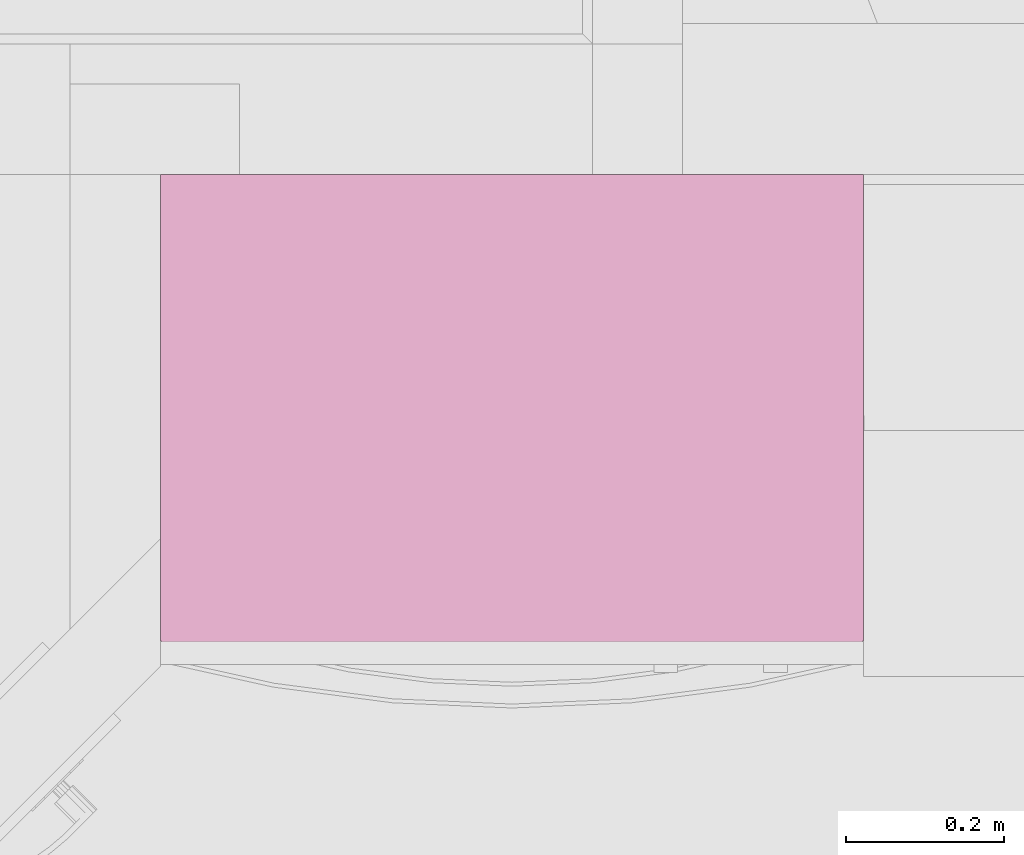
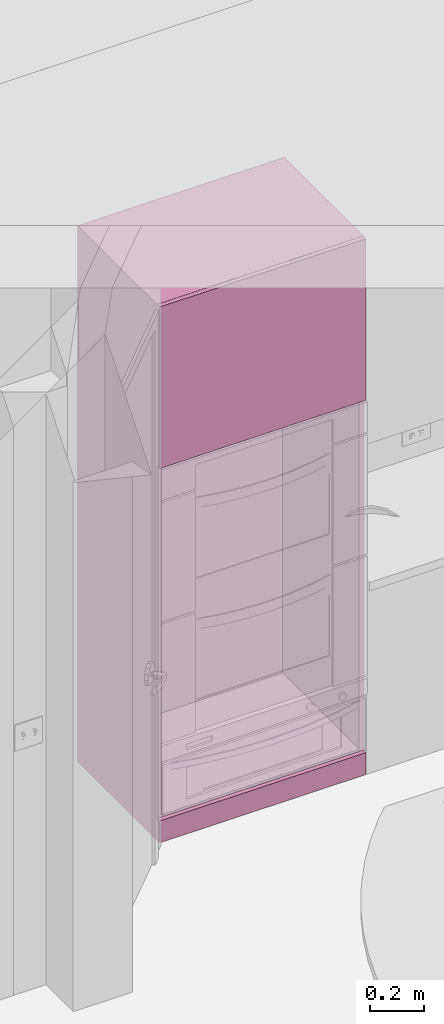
# One storey, part 50 of 103: 1 furnishing.
"""IFC2X3 building model written with IfcOpenShell, lengths in inches."""

import ifcopenshell
import ifcopenshell.guid

model = None  # the IFC model being written
_history = None  # IfcOwnerHistory: only IFC2X3 demands one
_inside = {}  # id of a spatial element -> (the spatial element, [elements in it])
_under = {}  # id of a project, library or spatial element -> (it, [spatial elements below it])
_declared = {}  # id of a project -> (the project, [libraries it declares])
_typed = {}  # id of a type object -> (the type object, [elements of that type])
_made_of = {}  # id of a material, layer set ... -> (it, [elements and type objects made of it])


def new_model(schema):
    """Start an empty IFC model of exactly this schema.

    Asked for "IFC4X3", IfcOpenShell would pick the latest addendum, in which some entities
    have other attributes; the version numbers below select the first issue.
    IFC2X3 requires an IfcOwnerHistory on every rooted entity: one is made here for all.
    """
    global model, _history
    if schema == "IFC4X3":
        model = ifcopenshell.file(schema_version=(4, 3, 0, 0))
    else:
        model = ifcopenshell.file(schema=schema)
    _inside.clear()
    _under.clear()
    _declared.clear()
    _typed.clear()
    _made_of.clear()
    _history = None
    if model.schema == "IFC2X3":
        org = make("IfcOrganization", Name="unknown")
        user = make(
            "IfcPersonAndOrganization",
            ThePerson=make("IfcPerson", FamilyName="unknown"),
            TheOrganization=org,
        )
        app = make(
            "IfcApplication",
            ApplicationDeveloper=org,
            Version="unknown",
            ApplicationFullName="unknown",
            ApplicationIdentifier="unknown",
        )
        _history = make(
            "IfcOwnerHistory",
            OwningUser=user,
            OwningApplication=app,
            ChangeAction="ADDED",
            CreationDate=0,
        )
    return model


def make(cls, **values):
    """One entity of the class cls with the attributes given. An attribute that is None is left unset."""
    return model.create_entity(
        cls, **{name: value for name, value in values.items() if value is not None}
    )


def entity(cls, *values):
    """Any entity or typed value of the class cls, its attributes in the order of the schema. None: left unset."""
    e = model.create_entity(cls)
    for i, value in enumerate(values):
        if value is not None:
            e[i] = value
    return e


def rooted(cls, **values):
    """An entity with a GlobalId (a new one), such as an element, a storey or a relation."""
    return make(cls, GlobalId=ifcopenshell.guid.new(), OwnerHistory=_history, **values)


def si_unit(unit_type, name, prefix=None):
    """IfcSIUnit, for example si_unit("LENGTHUNIT", "METRE", prefix="MILLI")."""
    return make("IfcSIUnit", UnitType=unit_type, Prefix=prefix, Name=name)


def converted_unit(unit_type, name, factor, base, dimensions=None, offset=None):
    """IfcConversionBasedUnit, such as the inch: factor (a typed value) times the base unit."""
    return make(
        "IfcConversionBasedUnit"
        if offset is None
        else "IfcConversionBasedUnitWithOffset",
        ConversionOffset=offset,
        Dimensions=None
        if dimensions is None
        else entity("IfcDimensionalExponents", *dimensions),
        UnitType=unit_type,
        Name=name,
        ConversionFactor=make(
            "IfcMeasureWithUnit", ValueComponent=factor, UnitComponent=base
        ),
    )


def derived_unit(unit_type, elements):
    """IfcDerivedUnit: a product of units, each with its exponent."""
    return make(
        "IfcDerivedUnit",
        Elements=[
            make("IfcDerivedUnitElement", Unit=unit, Exponent=power)
            for unit, power in elements
        ],
        UnitType=unit_type,
    )


def money_unit(currency):
    """IfcMonetaryUnit."""
    return make("IfcMonetaryUnit", Currency=currency)


def assignment(units):
    """IfcUnitAssignment: the units of a project."""
    return None if units is None else make("IfcUnitAssignment", Units=units)


def point(xyz):
    """IfcCartesianPoint."""
    return None if xyz is None else make("IfcCartesianPoint", Coordinates=xyz)


def direction(xyz):
    """IfcDirection."""
    return None if xyz is None else make("IfcDirection", DirectionRatios=xyz)


def frame(location, z_axis=None, x_axis=None):
    """IfcAxis2Placement3D, a coordinate frame: its origin and axes. An axis left out is left unset."""
    return make(
        "IfcAxis2Placement3D",
        Location=point(location),
        Axis=direction(z_axis),
        RefDirection=direction(x_axis),
    )


def origin_with_axes():
    """The frame at (0, 0, 0) with the z axis (0, 0, 1) and the x axis (1, 0, 0) written out."""
    return frame((0.0, 0.0, 0.0), z_axis=(0.0, 0.0, 1.0), x_axis=(1.0, 0.0, 0.0))


def place(relative_to, where):
    """IfcLocalPlacement: puts the frame where relative to a parent placement (None: the world)."""
    return make(
        "IfcLocalPlacement", PlacementRelTo=relative_to, RelativePlacement=where
    )


def context(
    kind, dimensions, precision=None, world=None, true_north=None, identifier=None
):
    """IfcGeometricRepresentationContext, for example the 3D "Model" context."""
    return make(
        "IfcGeometricRepresentationContext",
        ContextIdentifier=identifier,
        ContextType=kind,
        CoordinateSpaceDimension=dimensions,
        Precision=precision,
        WorldCoordinateSystem=world,
        TrueNorth=true_north,
    )


def subcontext(parent, identifier, kind, view, scale=None):
    """IfcGeometricRepresentationSubContext, for example "Body" below "Model"."""
    return make(
        "IfcGeometricRepresentationSubContext",
        ContextIdentifier=identifier,
        ContextType=kind,
        ParentContext=parent,
        TargetScale=scale,
        TargetView=view,
    )


def project(units=None, contexts=None):
    """IfcProject with its units and contexts."""
    return rooted(
        "IfcProject",
        Name="project",
        RepresentationContexts=contexts,
        UnitsInContext=assignment(units),
    )


def spatial(cls, under=None, at=None, **own):
    """A site, building, storey or space (cls), placed at a placement, below another one or the project."""
    s = rooted(cls, ObjectPlacement=at, **own)
    if under is not None:
        _under.setdefault(under.id(), (under, []))[1].append(s)
    return s


def faces_of(points, faces, orient=None, outer=None):
    """IfcFace entities. A face is a list of loops; a loop is a list of indices into points, from 0.

    orient and outer hold one flag for each loop. By default every Orientation is true, the
    first loop of a face is its IfcFaceOuterBound and the others are IfcFaceBound.
    """
    made = []
    for i, loops in enumerate(faces):
        bounds = []
        for j, loop in enumerate(loops):
            is_outer = j == 0 if outer is None else outer[i][j]
            bounds.append(
                make(
                    "IfcFaceOuterBound" if is_outer else "IfcFaceBound",
                    Bound=make("IfcPolyLoop", Polygon=[points[k] for k in loop]),
                    Orientation=True if orient is None else orient[i][j],
                )
            )
        made.append(make("IfcFace", Bounds=bounds))
    return made


def faceted_brep(points, faces, orient=None, outer=None, voids=None):
    """IfcFacetedBrep: a solid bounded by flat faces; with voids (closed shells), ...WithVoids."""
    shared = [point(p) for p in points]
    hull = make("IfcClosedShell", CfsFaces=faces_of(shared, faces, orient, outer))
    if voids is None:
        return make("IfcFacetedBrep", Outer=hull)
    return make(
        "IfcFacetedBrepWithVoids",
        Outer=hull,
        Voids=[
            make(cls, CfsFaces=faces_of(shared, fs, o, b)) for cls, fs, o, b in voids
        ],
    )


def shape(context_of_items, identifier, shape_type, items):
    """IfcShapeRepresentation: the items that make up one representation, for example the "Body"."""
    return make(
        "IfcShapeRepresentation",
        ContextOfItems=context_of_items,
        RepresentationIdentifier=identifier,
        RepresentationType=shape_type,
        Items=items,
    )


def made_of(thing, what):
    """Note that an element or type object is made of a material, layer set ...; save() writes the relation."""
    if what is not None:
        _made_of.setdefault(what.id(), (what, []))[1].append(thing)
    return thing


def type_object(cls, material=None, **own):
    """A type object (cls), such as IfcWallType, which elements share."""
    return made_of(rooted(cls, **own), material)


def element(
    cls,
    number,
    at=None,
    inside=None,
    cuts=None,
    type_object=None,
    material=None,
    context=None,
    identifier="Body",
    shape_type=None,
    held_by="IfcProductDefinitionShape",
    body=None,
    shapes=None,
    **own,
):
    """One element of the class cls, such as IfcWall. Its Tag is "e" and its number.

    at: its placement. inside: the storey or other place that contains it. cuts: it is an
    opening in that element (IfcRelVoidsElement). A single representation is given by context,
    identifier, shape_type and body (its items); several are given by shapes. held_by: the class
    of the entity that holds the representations. save() writes the other relations.
    """
    e = rooted(cls, Tag="e%d" % number, ObjectPlacement=at, **own)
    if body is not None:
        shapes = [shape(context, identifier, shape_type, body)]
    if shapes is not None:
        e.Representation = make(held_by, Representations=shapes)
    if inside is not None:
        _inside.setdefault(inside.id(), (inside, []))[1].append(e)
    if cuts is not None:
        rooted(
            "IfcRelVoidsElement", RelatingBuildingElement=cuts, RelatedOpeningElement=e
        )
    if type_object is not None:
        _typed.setdefault(type_object.id(), (type_object, []))[1].append(e)
    return made_of(e, material)


def aggregate(whole, parts):
    """IfcRelAggregates: a whole, such as a stair, and the parts it consists of."""
    return rooted("IfcRelAggregates", RelatingObject=whole, RelatedObjects=parts)


def save(model, path):
    """Write the relations noted so far, then the file.

    IfcRelAggregates (storeys below a building ...), IfcRelContainedInSpatialStructure (elements
    in a storey), IfcRelDefinesByType, IfcRelAssociatesMaterial and IfcRelDeclares: one each for
    every whole, place, type object, material and project.
    """
    for whole, parts in _under.values():
        aggregate(whole, parts)
    for where, things in _inside.values():
        rooted(
            "IfcRelContainedInSpatialStructure",
            RelatedElements=things,
            RelatingStructure=where,
        )
    for kind, things in _typed.values():
        rooted("IfcRelDefinesByType", RelatedObjects=things, RelatingType=kind)
    for what, things in _made_of.values():
        rooted("IfcRelAssociatesMaterial", RelatedObjects=things, RelatingMaterial=what)
    for by, libraries in _declared.values():
        rooted("IfcRelDeclares", RelatingContext=by, RelatedDefinitions=libraries)
    model.write(path)


model = new_model("IFC2X3")

# Units and contexts
model_context = context("Model", 3, precision=0.00039370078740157, world=origin_with_axes(), true_north=direction((0.0, 1.0)))
plan_context = context("Plan", 3, precision=0.00039370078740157, world=origin_with_axes(), true_north=direction((0.0, 1.0)))
body_context = subcontext(model_context, "Body", "Model", "MODEL_VIEW")
ifc_project = project(units=[converted_unit("LENGTHUNIT", "INCH", entity("IfcPositiveLengthMeasure", 0.0254), si_unit("LENGTHUNIT", "METRE"), dimensions=[1, 0, 0, 0, 0, 0, 0]), converted_unit("AREAUNIT", "SQUARE_FOOT", entity("IfcPositiveLengthMeasure", 0.09290304), si_unit("AREAUNIT", "SQUARE_METRE"), dimensions=[2, 0, 0, 0, 0, 0, 0]), si_unit("PLANEANGLEUNIT", "RADIAN"), si_unit("SOLIDANGLEUNIT", "STERADIAN"), money_unit("USD"), converted_unit("TIMEUNIT", "Year", entity("IfcTimeMeasure", 31557600.0), si_unit("TIMEUNIT", "SECOND"), dimensions=[0, 0, 1, 0, 0, 0, 0]), si_unit("MASSUNIT", "GRAM", prefix="KILO"), si_unit("THERMODYNAMICTEMPERATUREUNIT", "DEGREE_CELSIUS"), si_unit("LUMINOUSINTENSITYUNIT", "LUMEN"), si_unit("ENERGYUNIT", "JOULE", prefix="MEGA"), derived_unit("SPECIFICHEATCAPACITYUNIT", [(si_unit("ENERGYUNIT", "JOULE"), 1), (si_unit("MASSUNIT", "GRAM", prefix="KILO"), -1), (si_unit("THERMODYNAMICTEMPERATUREUNIT", "KELVIN"), -1)])], contexts=[model_context, plan_context])

# Site, building, storey
site_placement = place(None, origin_with_axes())
site = spatial("IfcSite", under=ifc_project, at=site_placement, Name="Site", CompositionType="ELEMENT")
building_placement = place(site_placement, origin_with_axes())
building = spatial("IfcBuilding", under=site, at=building_placement, Name="Building", CompositionType="ELEMENT")
storey_placement = place(building_placement, frame((0.0, 0.0, 127.9999999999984), z_axis=(0.0, 0.0, 1.0), x_axis=(1.0, 0.0, 0.0)))
storey = spatial("IfcBuildingStorey", under=building, at=storey_placement, Name="Second Floor", CompositionType="ELEMENT", Elevation=128.0)

# Furnishing
furniture_type = type_object("IfcFurnitureType", Name="Standing Cabinet Block", AssemblyPlace="NOTDEFINED")
furnishing_placement = place(storey_placement, frame((28.99947293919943, 395.5013676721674, 0.0), z_axis=(0.0, 0.0, 1.0), x_axis=(0.9999999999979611, 2.01938114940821e-06, 0.0)))
element("IfcFurnishingElement", 1, at=furnishing_placement, inside=storey, type_object=furniture_type, Name="OBJ-17", context=body_context, shape_type="Brep", body=[
    faceted_brep([(34.0531496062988, -23.24999999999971, 0.9468503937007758), (0.9468503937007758, -23.24999999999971, 0.9468503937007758), (0.9468503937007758, -0.7499999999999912, 0.9468503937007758), (34.0531496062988, -0.7499999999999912, 0.9468503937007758), (34.0531496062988, -23.24999999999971, 1.340551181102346), (0.9468503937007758, -23.24999999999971, 1.340551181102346), (0.9468503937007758, -0.7499999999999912, 1.340551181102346), (34.0531496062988, -0.7499999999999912, 1.340551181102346)], [[[0, 1, 2, 3]], [[1, 0, 4, 5]], [[2, 1, 5, 6]], [[3, 2, 6, 7]], [[0, 3, 7, 4]], [[5, 4, 7, 6]]]),
    faceted_brep([(1.734251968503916, -23.24999999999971, 1.340551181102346), (0.9468503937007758, -23.24999999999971, 1.340551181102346), (0.9468503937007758, -0.7499999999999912, 1.340551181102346), (1.734251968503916, -0.7499999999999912, 1.340551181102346), (1.734251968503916, -23.24999999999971, 3.428149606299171), (0.9468503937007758, -23.24999999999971, 3.428149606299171), (0.9468503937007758, -0.7499999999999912, 3.428149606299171), (1.734251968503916, -0.7499999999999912, 3.428149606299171)], [[[0, 1, 2, 3]], [[1, 0, 4, 5]], [[2, 1, 5, 6]], [[3, 2, 6, 7]], [[0, 3, 7, 4]], [[5, 4, 7, 6]]]),
    faceted_brep([(34.0531496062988, -23.24999999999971, 1.340551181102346), (33.26574803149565, -23.24999999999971, 1.340551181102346), (33.26574803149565, -0.7499999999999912, 1.340551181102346), (34.0531496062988, -0.7499999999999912, 1.340551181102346), (34.0531496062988, -23.24999999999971, 3.428149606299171), (33.26574803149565, -23.24999999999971, 3.428149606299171), (33.26574803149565, -0.7499999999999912, 3.428149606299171), (34.0531496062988, -0.7499999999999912, 3.428149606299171)], [[[0, 1, 2, 3]], [[1, 0, 4, 5]], [[2, 1, 5, 6]], [[3, 2, 6, 7]], [[0, 3, 7, 4]], [[5, 4, 7, 6]]]),
    faceted_brep([(33.26574803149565, -1.340551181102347, 1.340551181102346), (1.734251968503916, -1.340551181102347, 1.340551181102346), (1.734251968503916, -0.9468503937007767, 1.340551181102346), (33.26574803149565, -0.9468503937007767, 1.340551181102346), (33.26574803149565, -1.340551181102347, 3.42814960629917), (1.734251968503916, -1.340551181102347, 3.42814960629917), (1.734251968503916, -0.9468503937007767, 3.42814960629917), (33.26574803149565, -0.9468503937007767, 3.42814960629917)], [[[0, 1, 2, 3]], [[1, 0, 4, 5]], [[2, 1, 5, 6]], [[3, 2, 6, 7]], [[0, 3, 7, 4]], [[5, 4, 7, 6]]]),
    faceted_brep([(0.7499999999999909, -23.24999999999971, 3.624999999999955), (34.24999999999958, -23.24999999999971, 3.624999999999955), (34.24999999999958, -23.24999999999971, 4.374999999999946), (0.7499999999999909, -23.24999999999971, 4.374999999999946), (0.7499999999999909, -0.7499999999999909, 3.624999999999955), (34.24999999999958, -0.7499999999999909, 3.624999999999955), (34.24999999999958, -0.7499999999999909, 4.374999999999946), (0.7499999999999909, -0.7499999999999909, 4.374999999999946)], [[[0, 1, 2, 3]], [[0, 4, 5, 1]], [[1, 5, 6, 2]], [[3, 2, 6, 7]], [[4, 0, 3, 7]], [[5, 4, 7, 6]]]),
    faceted_brep([(0.7499999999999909, -23.24999999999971, 66.62499999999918), (34.24999999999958, -23.24999999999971, 66.62499999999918), (34.24999999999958, -23.24999999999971, 67.37499999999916), (0.7499999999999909, -23.24999999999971, 67.37499999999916), (0.7499999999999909, -0.7499999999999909, 66.62499999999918), (34.24999999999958, -0.7499999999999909, 66.62499999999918), (34.24999999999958, -0.7499999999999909, 67.37499999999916), (0.7499999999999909, -0.7499999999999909, 67.37499999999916)], [[[0, 1, 2, 3]], [[0, 4, 5, 1]], [[1, 5, 6, 2]], [[3, 2, 6, 7]], [[4, 0, 3, 7]], [[5, 4, 7, 6]]]),
    faceted_brep([(34.0531496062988, -23.24999999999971, 67.57185039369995), (0.9468503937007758, -23.24999999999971, 67.57185039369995), (0.9468503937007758, -0.7499999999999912, 67.57185039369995), (34.0531496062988, -0.7499999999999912, 67.57185039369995), (34.0531496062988, -23.24999999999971, 67.96555118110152), (0.9468503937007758, -23.24999999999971, 67.96555118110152), (0.9468503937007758, -0.7499999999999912, 67.96555118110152), (34.0531496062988, -0.7499999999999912, 67.96555118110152)], [[[0, 1, 2, 3]], [[1, 0, 4, 5]], [[2, 1, 5, 6]], [[3, 2, 6, 7]], [[0, 3, 7, 4]], [[5, 4, 7, 6]]]),
    faceted_brep([(1.734251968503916, -23.24999999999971, 67.96555118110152), (0.9468503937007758, -23.24999999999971, 67.96555118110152), (0.9468503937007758, -0.7499999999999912, 67.96555118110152), (1.734251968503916, -0.7499999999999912, 67.96555118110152), (1.734251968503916, -23.24999999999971, 95.05314960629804), (0.9468503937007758, -23.24999999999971, 95.05314960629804), (0.9468503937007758, -0.7499999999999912, 95.05314960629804), (1.734251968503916, -0.7499999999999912, 95.05314960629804)], [[[0, 1, 2, 3]], [[1, 0, 4, 5]], [[2, 1, 5, 6]], [[3, 2, 6, 7]], [[0, 3, 7, 4]], [[5, 4, 7, 6]]]),
    faceted_brep([(34.0531496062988, -23.24999999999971, 67.96555118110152), (33.26574803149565, -23.24999999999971, 67.96555118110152), (33.26574803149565, -0.7499999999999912, 67.96555118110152), (34.0531496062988, -0.7499999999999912, 67.96555118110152), (34.0531496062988, -23.24999999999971, 95.05314960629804), (33.26574803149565, -23.24999999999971, 95.05314960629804), (33.26574803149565, -0.7499999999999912, 95.05314960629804), (34.0531496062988, -0.7499999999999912, 95.05314960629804)], [[[0, 1, 2, 3]], [[1, 0, 4, 5]], [[2, 1, 5, 6]], [[3, 2, 6, 7]], [[0, 3, 7, 4]], [[5, 4, 7, 6]]]),
    faceted_brep([(33.26574803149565, -1.340551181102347, 67.96555118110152), (1.734251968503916, -1.340551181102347, 67.96555118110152), (1.734251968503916, -0.9468503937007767, 67.96555118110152), (33.26574803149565, -0.9468503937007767, 67.96555118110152), (33.26574803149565, -1.340551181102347, 95.05314960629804), (1.734251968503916, -1.340551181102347, 95.05314960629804), (1.734251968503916, -0.9468503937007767, 95.05314960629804), (33.26574803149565, -0.9468503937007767, 95.05314960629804)], [[[0, 1, 2, 3]], [[1, 0, 4, 5]], [[2, 1, 5, 6]], [[3, 2, 6, 7]], [[0, 3, 7, 4]], [[5, 4, 7, 6]]]),
    faceted_brep([(0.039370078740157, -23.24999999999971, 0.039370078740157), (34.96062992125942, -23.24999999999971, 0.039370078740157), (34.96062992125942, -23.9999999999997, 0.03937007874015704), (0.039370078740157, -23.9999999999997, 0.03937007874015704), (0.039370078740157, -23.24999999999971, 3.960629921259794), (34.96062992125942, -23.24999999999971, 3.960629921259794), (34.96062992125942, -23.9999999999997, 3.960629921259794), (0.039370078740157, -23.9999999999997, 3.960629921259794)], [[[0, 1, 2, 3]], [[0, 4, 5, 1]], [[1, 5, 6, 2]], [[3, 2, 6, 7]], [[4, 0, 3, 7]], [[5, 4, 7, 6]]]),
    faceted_brep([(0.039370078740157, -23.24999999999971, 67.03937007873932), (34.96062992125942, -23.24999999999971, 67.03937007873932), (34.96062992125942, -23.9999999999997, 67.03937007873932), (0.039370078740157, -23.9999999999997, 67.03937007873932), (0.039370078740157, -23.24999999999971, 95.96062992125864), (34.96062992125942, -23.24999999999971, 95.96062992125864), (34.96062992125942, -23.9999999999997, 95.96062992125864), (0.039370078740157, -23.9999999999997, 95.96062992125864)], [[[0, 1, 2, 3]], [[0, 4, 5, 1]], [[1, 5, 6, 2]], [[3, 2, 6, 7]], [[4, 0, 3, 7]], [[5, 4, 7, 6]]]),
    faceted_brep([(0.7499999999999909, -23.24999999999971, 0.0), (34.24999999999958, -23.24999999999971, 0.0), (34.24999999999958, -23.24999999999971, 0.7499999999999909), (0.7499999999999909, -23.24999999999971, 0.7499999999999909), (0.7499999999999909, 0.0, 0.0), (34.24999999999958, 0.0, 0.0), (34.24999999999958, 0.0, 0.7499999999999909), (0.7499999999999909, 0.0, 0.7499999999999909)], [[[0, 1, 2, 3]], [[0, 4, 5, 1]], [[1, 5, 6, 2]], [[3, 2, 6, 7]], [[4, 0, 3, 7]], [[5, 4, 7, 6]]]),
    faceted_brep([(0.7499999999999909, -23.24999999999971, 95.24999999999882), (34.24999999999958, -23.24999999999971, 95.24999999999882), (34.24999999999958, -23.24999999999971, 95.9999999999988), (0.7499999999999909, -23.24999999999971, 95.9999999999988), (0.7499999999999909, 0.0, 95.24999999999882), (34.24999999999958, 0.0, 95.24999999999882), (34.24999999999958, 0.0, 95.9999999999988), (0.7499999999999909, 0.0, 95.9999999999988)], [[[0, 1, 2, 3]], [[0, 4, 5, 1]], [[1, 5, 6, 2]], [[3, 2, 6, 7]], [[4, 0, 3, 7]], [[5, 4, 7, 6]]]),
    faceted_brep([(0.0, 0.0, 0.0), (0.0, -23.24999999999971, 0.0), (0.0, -23.24999999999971, 95.9999999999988), (0.0, 0.0, 95.9999999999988), (0.7499999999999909, 0.0, 0.0), (0.7499999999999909, -23.24999999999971, 0.0), (0.7499999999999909, -23.24999999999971, 95.9999999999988), (0.7499999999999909, 0.0, 95.9999999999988)], [[[0, 1, 2, 3]], [[0, 4, 5, 1]], [[1, 5, 6, 2]], [[3, 2, 6, 7]], [[4, 0, 3, 7]], [[5, 4, 7, 6]]]),
    faceted_brep([(34.99999999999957, -23.24999999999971, 0.0), (34.99999999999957, 0.0, 0.0), (34.99999999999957, 0.0, 95.9999999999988), (34.99999999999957, -23.24999999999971, 95.9999999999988), (34.24999999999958, -23.24999999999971, 0.0), (34.24999999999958, 0.0, 0.0), (34.24999999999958, 0.0, 95.9999999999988), (34.24999999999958, -23.24999999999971, 95.9999999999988)], [[[0, 1, 2, 3]], [[0, 4, 5, 1]], [[1, 5, 6, 2]], [[3, 2, 6, 7]], [[4, 0, 3, 7]], [[5, 4, 7, 6]]]),
    faceted_brep([(34.24999999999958, -0.3749999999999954, 0.7499999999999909), (0.7499999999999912, -0.3749999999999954, 0.7499999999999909), (0.7499999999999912, -0.3749999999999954, 95.24999999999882), (34.24999999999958, -0.3749999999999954, 95.24999999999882), (34.24999999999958, -0.7499999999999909, 0.7499999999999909), (0.7499999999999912, -0.7499999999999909, 0.7499999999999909), (0.7499999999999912, -0.7499999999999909, 95.24999999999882), (34.24999999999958, -0.7499999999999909, 95.24999999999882)], [[[0, 1, 2, 3]], [[0, 4, 5, 1]], [[1, 5, 6, 2]], [[3, 2, 6, 7]], [[4, 0, 3, 7]], [[5, 4, 7, 6]]]),
])

save(model, "model.ifc")
